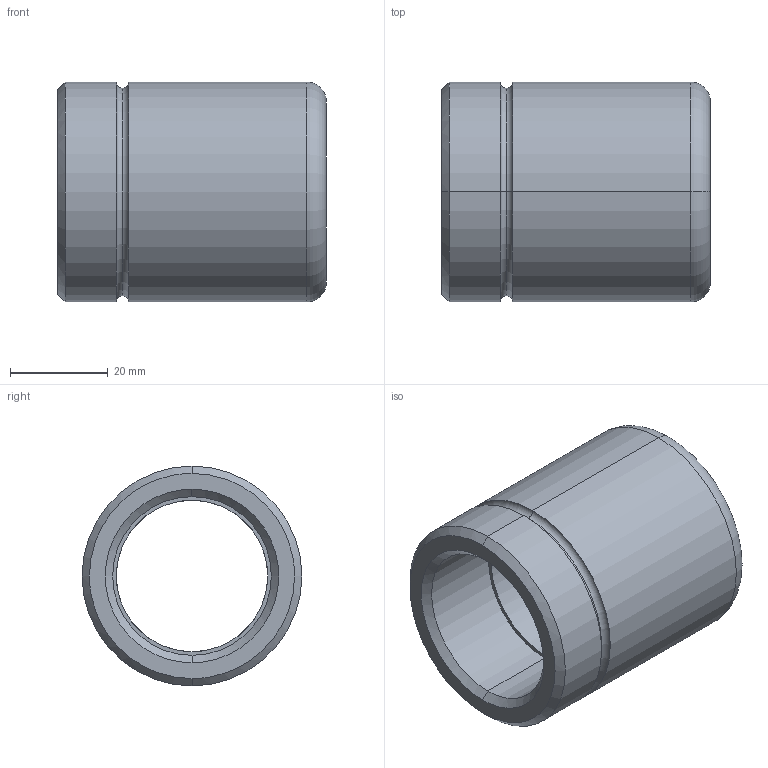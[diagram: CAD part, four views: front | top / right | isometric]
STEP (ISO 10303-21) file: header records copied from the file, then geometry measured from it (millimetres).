
FILE_DESCRIPTION(('CATIA V5 STEP Exchange'),'2;1');
FILE_NAME('C:\Users\Utente\Desktop\IO LAVORO\3D X SITO CF\X SITO\3D files 347\347-31 x 55.stp','2021-01-01T09:47:36+00:00',('none'),('none'),'CATIA Version 5 Release 20 GA (IN-10)','CATIA V5 STEP AP203','none');
FILE_SCHEMA(('CONFIG_CONTROL_DESIGN'));
Length unit declared in the file: millimetre
Products named in the file (1): 347-31 x 55
Bounding box: 55 x 45 x 45 mm (x, y, z)
Volume: 43156.5 mm3; surface area: 14760 mm2
Topology: 1 solids, 1 shells, 29 faces, 86 edges, 60 vertices
Faces by surface type: torus 12, cylinder 10, cone 4, plane 3
Entity records: 1160 total; most frequent: CARTESIAN_POINT 350, ORIENTED_EDGE 172, DIRECTION 132, AXIS2_PLACEMENT_3D 90, EDGE_CURVE 86, CIRCLE 60, VERTEX_POINT 60, EDGE_LOOP 32
